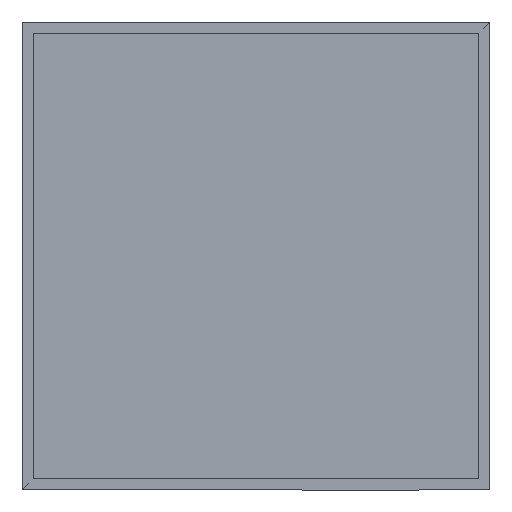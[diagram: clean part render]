
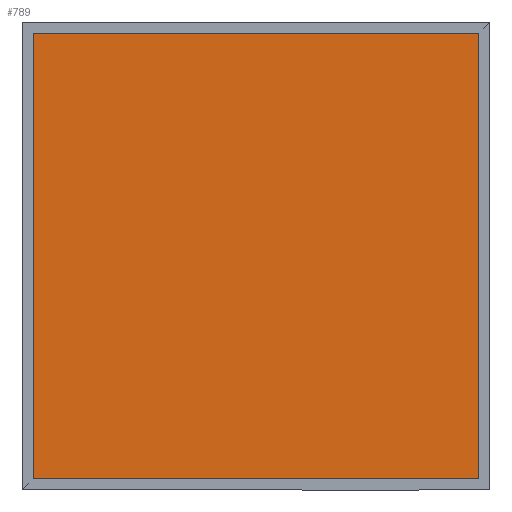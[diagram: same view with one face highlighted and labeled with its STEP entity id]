
A CAD part, front view. The second image highlights one B-rep face of the part: STEP entity #789.
In plain terms, the highlighted planar face has unit normal (0, -1, 0).
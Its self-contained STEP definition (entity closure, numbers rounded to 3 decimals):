
#44 = DIRECTION ( 'NONE',  ( -1., 0., 0. ) ) ;
#100 = VECTOR ( 'NONE', #426, 1000. ) ;
#112 = VECTOR ( 'NONE', #312, 1000. ) ;
#137 = CARTESIAN_POINT ( 'NONE',  ( -295., 0., -295. ) ) ;
#143 = VECTOR ( 'NONE', #433, 1000. ) ;
#170 = EDGE_LOOP ( 'NONE', ( #899, #644, #362, #727 ) ) ;
#171 = CARTESIAN_POINT ( 'NONE',  ( 295., 0., -295. ) ) ;
#187 = FACE_OUTER_BOUND ( 'NONE', #170, .T. ) ;
#201 = EDGE_CURVE ( 'NONE', #453, #702, #380, .T. ) ;
#284 = VERTEX_POINT ( 'NONE', #794 ) ;
#298 = AXIS2_PLACEMENT_3D ( 'NONE', #991, #720, #443 ) ;
#312 = DIRECTION ( 'NONE',  ( -1., 0., 0. ) ) ;
#350 = LINE ( 'NONE', #495, #888 ) ;
#352 = EDGE_CURVE ( 'NONE', #702, #1056, #1082, .T. ) ;
#358 = CARTESIAN_POINT ( 'NONE',  ( 295., 0., -295. ) ) ;
#362 = ORIENTED_EDGE ( 'NONE', *, *, #352, .F. ) ;
#372 = EDGE_CURVE ( 'NONE', #453, #284, #350, .T. ) ;
#380 = LINE ( 'NONE', #710, #143 ) ;
#426 = DIRECTION ( 'NONE',  ( 0., 0., -1. ) ) ;
#433 = DIRECTION ( 'NONE',  ( 0., 0., -1. ) ) ;
#443 = DIRECTION ( 'NONE',  ( 0., 0., -1. ) ) ;
#453 = VERTEX_POINT ( 'NONE', #1079 ) ;
#495 = CARTESIAN_POINT ( 'NONE',  ( 295., 0., 295. ) ) ;
#644 = ORIENTED_EDGE ( 'NONE', *, *, #1159, .T. ) ;
#702 = VERTEX_POINT ( 'NONE', #358 ) ;
#710 = CARTESIAN_POINT ( 'NONE',  ( 295., 0., 295. ) ) ;
#711 = PLANE ( 'NONE',  #298 ) ;
#720 = DIRECTION ( 'NONE',  ( 0., -1., 0. ) ) ;
#727 = ORIENTED_EDGE ( 'NONE', *, *, #201, .F. ) ;
#789 = ADVANCED_FACE ( 'NONE', ( #187 ), #711, .T. ) ;
#794 = CARTESIAN_POINT ( 'NONE',  ( -295., 0., 295. ) ) ;
#888 = VECTOR ( 'NONE', #44, 1000. ) ;
#899 = ORIENTED_EDGE ( 'NONE', *, *, #372, .T. ) ;
#905 = LINE ( 'NONE', #969, #100 ) ;
#969 = CARTESIAN_POINT ( 'NONE',  ( -295., 0., 295. ) ) ;
#991 = CARTESIAN_POINT ( 'NONE',  ( 0., 0., 0. ) ) ;
#1056 = VERTEX_POINT ( 'NONE', #137 ) ;
#1079 = CARTESIAN_POINT ( 'NONE',  ( 295., 0., 295. ) ) ;
#1082 = LINE ( 'NONE', #171, #112 ) ;
#1159 = EDGE_CURVE ( 'NONE', #284, #1056, #905, .T. ) ;
